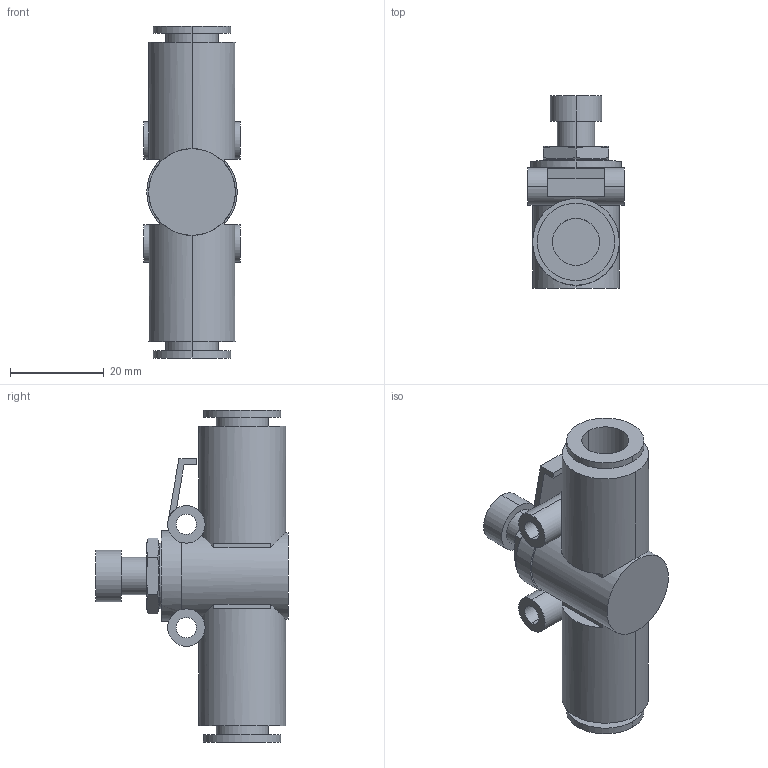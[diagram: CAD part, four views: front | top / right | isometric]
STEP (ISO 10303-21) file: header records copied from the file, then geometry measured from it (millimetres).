
FILE_DESCRIPTION( ( '' ), '1' );
FILE_NAME( 'G:/SMC狟婥/AS3002F-10.stp', '2023-03-07T04:00:11', ( '' ), ( '' ), ' ', ' ', ' ' );
FILE_SCHEMA( ( 'CONFIG_CONTROL_DESIGN' ) );
Length unit declared in the file: millimetre
Products named in the file (1): 1
Bounding box: 20.5 x 41 x 70.8 mm (x, y, z)
Volume: 20597 mm3; surface area: 9367.8 mm2
Topology: 1 solids, 1 shells, 79 faces, 198 edges, 132 vertices
Faces by surface type: plane 41, cylinder 34, cone 4
Entity records: 2940 total; most frequent: CARTESIAN_POINT 966, DIRECTION 418, ORIENTED_EDGE 396, EDGE_CURVE 198, AXIS2_PLACEMENT_3D 168, VERTEX_POINT 132, EDGE_LOOP 94, LINE 82
